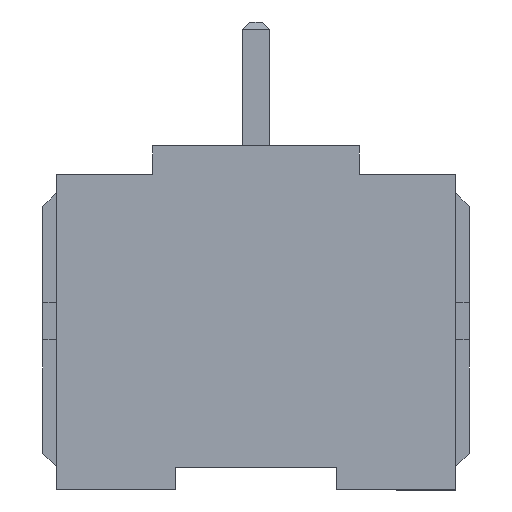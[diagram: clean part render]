
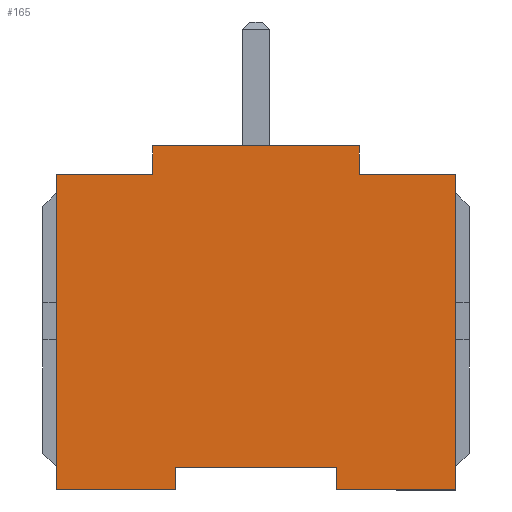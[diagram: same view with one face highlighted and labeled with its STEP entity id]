
A CAD part, left-side view. The second image highlights one B-rep face of the part: STEP entity #165.
In plain terms, the highlighted planar face has unit normal (-1, 0, 0).
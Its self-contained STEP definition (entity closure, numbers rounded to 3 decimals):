
#165=ADVANCED_FACE('',(#429),#430,.T.);
#429=FACE_OUTER_BOUND('',#694,.T.);
#430=PLANE('',#695);
#694=EDGE_LOOP('',(#1599,#1600,#1601,#1602,#1603,#1604,#1605,#1606,#1607,#1608,#1609,#1610));
#695=AXIS2_PLACEMENT_3D('',#1611,#1612,#1613);
#1599=ORIENTED_EDGE('',*,*,#1885,.F.);
#1600=ORIENTED_EDGE('',*,*,#1911,.F.);
#1601=ORIENTED_EDGE('',*,*,#1801,.F.);
#1602=ORIENTED_EDGE('',*,*,#1909,.F.);
#1603=ORIENTED_EDGE('',*,*,#1906,.F.);
#1604=ORIENTED_EDGE('',*,*,#1903,.F.);
#1605=ORIENTED_EDGE('',*,*,#1900,.F.);
#1606=ORIENTED_EDGE('',*,*,#1897,.F.);
#1607=ORIENTED_EDGE('',*,*,#1789,.F.);
#1608=ORIENTED_EDGE('',*,*,#1895,.F.);
#1609=ORIENTED_EDGE('',*,*,#1892,.F.);
#1610=ORIENTED_EDGE('',*,*,#1889,.F.);
#1611=CARTESIAN_POINT('',(-35.9,0.,31.196));
#1612=DIRECTION('',(-1.0,0.0,0.));
#1613=DIRECTION('',(0.,0.0,1.0));
#1789=EDGE_CURVE('',#2181,#2182,#2183,.T.);
#1801=EDGE_CURVE('',#2205,#2206,#2207,.T.);
#1885=EDGE_CURVE('',#2341,#2342,#2343,.T.);
#1889=EDGE_CURVE('',#2342,#2349,#2350,.T.);
#1892=EDGE_CURVE('',#2349,#2354,#2355,.T.);
#1895=EDGE_CURVE('',#2354,#2181,#2359,.T.);
#1897=EDGE_CURVE('',#2182,#2361,#2362,.T.);
#1900=EDGE_CURVE('',#2361,#2366,#2367,.T.);
#1903=EDGE_CURVE('',#2366,#2371,#2372,.T.);
#1906=EDGE_CURVE('',#2371,#2376,#2377,.T.);
#1909=EDGE_CURVE('',#2376,#2205,#2381,.T.);
#1911=EDGE_CURVE('',#2206,#2341,#2383,.T.);
#2181=VERTEX_POINT('',#2789);
#2182=VERTEX_POINT('',#2790);
#2183=LINE('',#2791,#2792);
#2205=VERTEX_POINT('',#2825);
#2206=VERTEX_POINT('',#2826);
#2207=LINE('',#2827,#2828);
#2341=VERTEX_POINT('',#3045);
#2342=VERTEX_POINT('',#3046);
#2343=LINE('',#3047,#3048);
#2349=VERTEX_POINT('',#3057);
#2350=LINE('',#3058,#3059);
#2354=VERTEX_POINT('',#3065);
#2355=LINE('',#3066,#3067);
#2359=LINE('',#3073,#3074);
#2361=VERTEX_POINT('',#3077);
#2362=LINE('',#3078,#3079);
#2366=VERTEX_POINT('',#3085);
#2367=LINE('',#3086,#3087);
#2371=VERTEX_POINT('',#3093);
#2372=LINE('',#3094,#3095);
#2376=VERTEX_POINT('',#3101);
#2377=LINE('',#3102,#3103);
#2381=LINE('',#3109,#3110);
#2383=LINE('',#3113,#3114);
#2789=CARTESIAN_POINT('',(-35.9,43.5,-5.0));
#2790=CARTESIAN_POINT('',(-35.9,43.5,63.8));
#2791=CARTESIAN_POINT('',(-35.9,43.5,-5.0));
#2792=VECTOR('',#3325,1.0);
#2825=CARTESIAN_POINT('',(-35.9,-43.5,63.8));
#2826=CARTESIAN_POINT('',(-35.9,-43.5,-5.0));
#2827=CARTESIAN_POINT('',(-35.9,-43.5,-5.0));
#2828=VECTOR('',#3337,1.0);
#3045=CARTESIAN_POINT('',(-35.9,-17.5,-5.0));
#3046=CARTESIAN_POINT('',(-35.9,-17.5,0.));
#3047=CARTESIAN_POINT('',(-35.9,-17.5,-5.0));
#3048=VECTOR('',#3421,1.0);
#3057=CARTESIAN_POINT('',(-35.9,17.5,0.));
#3058=CARTESIAN_POINT('',(-35.9,-17.5,0.));
#3059=VECTOR('',#3425,1.0);
#3065=CARTESIAN_POINT('',(-35.9,17.5,-5.0));
#3066=CARTESIAN_POINT('',(-35.9,17.5,-5.0));
#3067=VECTOR('',#3428,1.0);
#3073=CARTESIAN_POINT('',(-35.9,17.5,-5.0));
#3074=VECTOR('',#3431,1.0);
#3077=CARTESIAN_POINT('',(-35.9,22.5,63.8));
#3078=CARTESIAN_POINT('',(-35.9,22.5,63.8));
#3079=VECTOR('',#3433,1.0);
#3085=CARTESIAN_POINT('',(-35.9,22.5,70.0));
#3086=CARTESIAN_POINT('',(-35.9,22.5,63.8));
#3087=VECTOR('',#3436,1.0);
#3093=CARTESIAN_POINT('',(-35.9,-22.5,70.0));
#3094=CARTESIAN_POINT('',(-35.9,-22.5,70.0));
#3095=VECTOR('',#3439,1.0);
#3101=CARTESIAN_POINT('',(-35.9,-22.5,63.8));
#3102=CARTESIAN_POINT('',(-35.9,-22.5,63.8));
#3103=VECTOR('',#3442,1.0);
#3109=CARTESIAN_POINT('',(-35.9,-43.5,63.8));
#3110=VECTOR('',#3445,1.0);
#3113=CARTESIAN_POINT('',(-35.9,-43.5,-5.0));
#3114=VECTOR('',#3447,1.0);
#3325=DIRECTION('',(0.,0.0,1.0));
#3337=DIRECTION('',(0.,0.,-1.0));
#3421=DIRECTION('',(0.,0.0,1.0));
#3425=DIRECTION('',(0.,1.0,0.));
#3428=DIRECTION('',(0.,-0.0,-1.0));
#3431=DIRECTION('',(0.0,1.0,0.0));
#3433=DIRECTION('',(0.0,-1.0,-0.0));
#3436=DIRECTION('',(0.,0.,1.0));
#3439=DIRECTION('',(0.0,-1.0,-0.0));
#3442=DIRECTION('',(0.,-0.0,-1.0));
#3445=DIRECTION('',(0.0,-1.0,-0.0));
#3447=DIRECTION('',(0.,1.0,0.));
